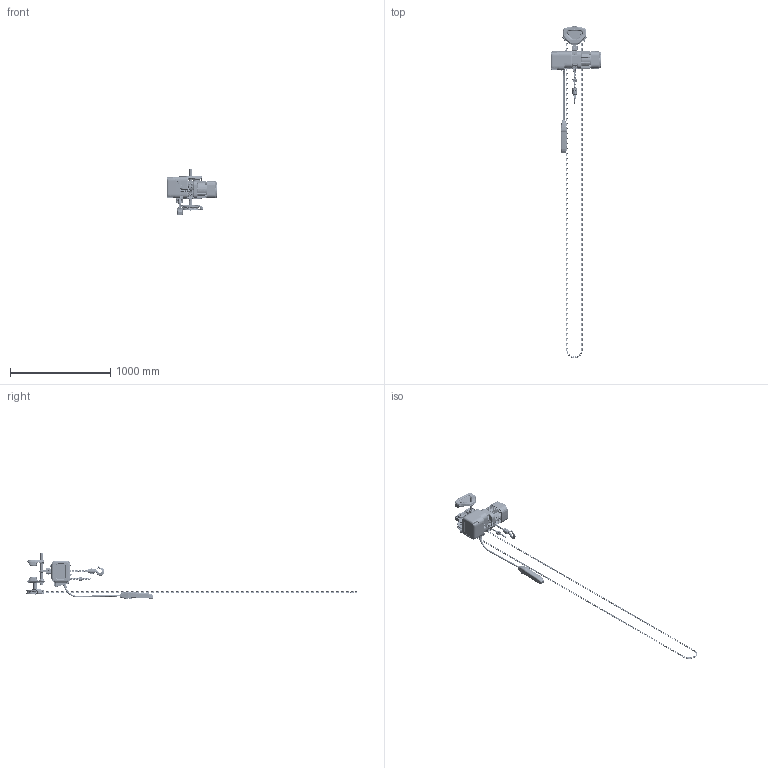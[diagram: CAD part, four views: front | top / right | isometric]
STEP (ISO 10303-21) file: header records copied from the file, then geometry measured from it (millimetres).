
FILE_DESCRIPTION (( 'STEP AP214' ), '1' );
FILE_NAME ('NER2G003H.STEP', '2026-08-10T19:45:13', ( '' ), ( '' ), 'SwSTEP 2.0', 'SolidWorks 2026', '' );
FILE_SCHEMA (( 'AUTOMOTIVE_DESIGN' ));
Length unit declared in the file: inch
Products named in the file (87): ER1BS9535; ER2CS2564; ER2CH9015; T6GA0109112; LCER2005NP; T6GA0109126; NER2003H_FOR GEARED TROLLEY; T6G123010; ECP2304AD; ER1BS9135; ER2CS9332; T7GB004010; T7GB0109121; ER2CH2015; HCCF005 for GT2010; ER2CS2523; T7GB0105111; T6GA0109113; NER2G003H; ER2CS9101; T6GA0109103; ER2CH1011; ER1CS9032; ES558003; ER2CS9103; T7G117010; ER2CS9511; 6302Z BEARING; ER2CS9027; ER2CS9331; J1NA001-20060_B18.2.4.1M - Hex nut, Style 1,  M6 x 1 --D-C; 9009414-5_9009414-5; T7GA0105112; GTS2010_6" FLANGE; L3183008_CASTLENUT_J1NL001-10100; ER2CS9107_ER2CS9107; ER2BHM05S9A5; 9012515_9012515; ER2CS9123; T6G5121010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
Assembly tree (443 placements, depth 5):
  NER2G003H
    GTS2010_6" FLANGE
      T7GA0105112
        T6GA0109112
        T7GA0109141
        T7GA0109142
        T6GA0109113
        T6GA0109103  x2
      T7GB0105111
        T6GA0109111
        T7GA0109141
        T7GA0109142
        T6GA0109113
        T6GA0109103  x2
        T7GB0109122
      T6G5101010  x2
        T6GA0109102
        6302Z BEARING
      T6G5102010  x2
        T6GA0109101
        6302Z BEARING
      MS104010  x4
      9047115_9047115  x4
      T6G800010G
      T7G117010
      T6G156010  x2
      9009423_9009423  x3
      T7GA0109136
      T6G5121010
        T6GA0109125
        T6GA0109126
      T6G123010
      L4082090_L4082090
      T7GB0109121
      HCCF005 for GT2010
        HCCF005  x270
      9012515_9012515
    NER2003H_FOR GEARED TROLLEY
      ER2CS9104_ER2CS9104
      ER2CS9101
      ER2CS9103
      ER2CS9105
      ER2CS9107_ER2CS9107
      ER2CH1011
        ER2BS9011
        ER2CS1002
        ER2CH2015
          ER2CH9015  x2
          J1BY9-0602525_B18.2.3.1M - Hex cap screw, M6 x 1.0 x 25 --25C  x2
          J1WS011-20060_Rectangular section spring washer BS 4464 - 16 (Type B)  x2
          J1NA001-20060_B18.2.4.1M - Hex nut, Style 1,  M6 x 1 --D-C  x2
      ER2CS9331
      ER2CS9357
      ER2CS9337
      ER2CS9338
      ER2CS9121  x2
      ER1CS1041
      ER2CS9186
      ER2CS9123
      LCER2005NP
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Bounding box: 509.1 x 3319.02 x 466.17 mm (x, y, z)
Volume: 13042602.3 mm3; surface area: 2364879.2 mm2
Topology: 445 solids, 461 shells, 14812 faces, 37525 edges, 23288 vertices
Faces by surface type: plane 5273, cylinder 5157, torus 2853, cone 790, bspline 678, sphere 61
Entity records: 305990 total; most frequent: CARTESIAN_POINT 99029, ORIENTED_EDGE 43322, DIRECTION 39555, EDGE_CURVE 21663, AXIS2_PLACEMENT_3D 15245, VERTEX_POINT 13901, VECTOR 9065, LINE 9065
